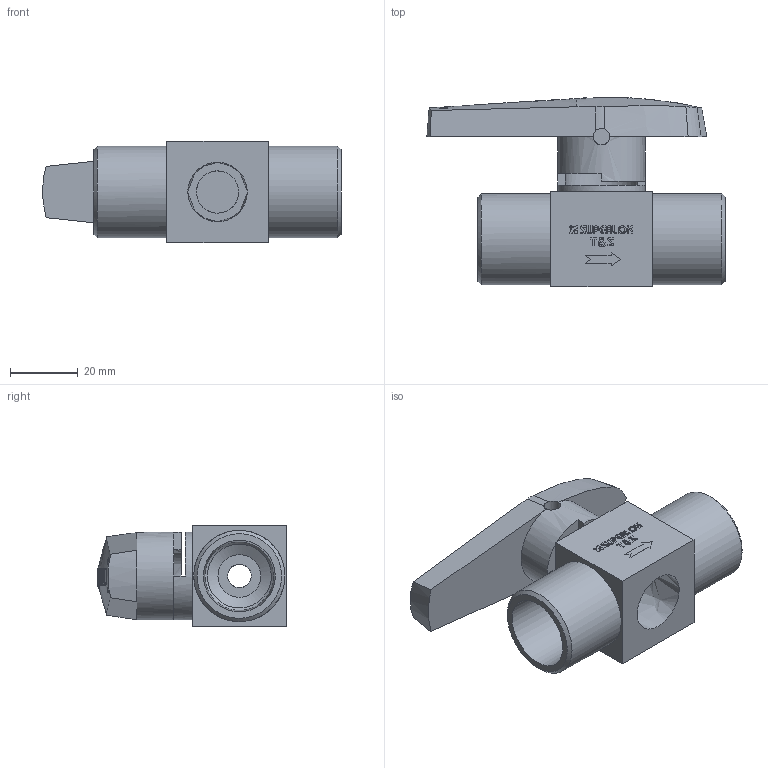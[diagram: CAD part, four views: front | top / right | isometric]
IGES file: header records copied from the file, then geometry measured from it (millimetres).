
Global section: file name: SPV132-F8N; native system: Autodesk Inventor 2016; preprocessor: unknown; author: DESIGNPC2; date: 20160502.090732; units: millimetre
Bounding box: 88.33 x 56.05 x 30.01 mm (x, y, z)
Volume: 49491.7 mm3; surface area: 19421.4 mm2
Topology: 2 solids, 2 shells, 425 faces, 1151 edges, 772 vertices
Faces by surface type: bspline 425
